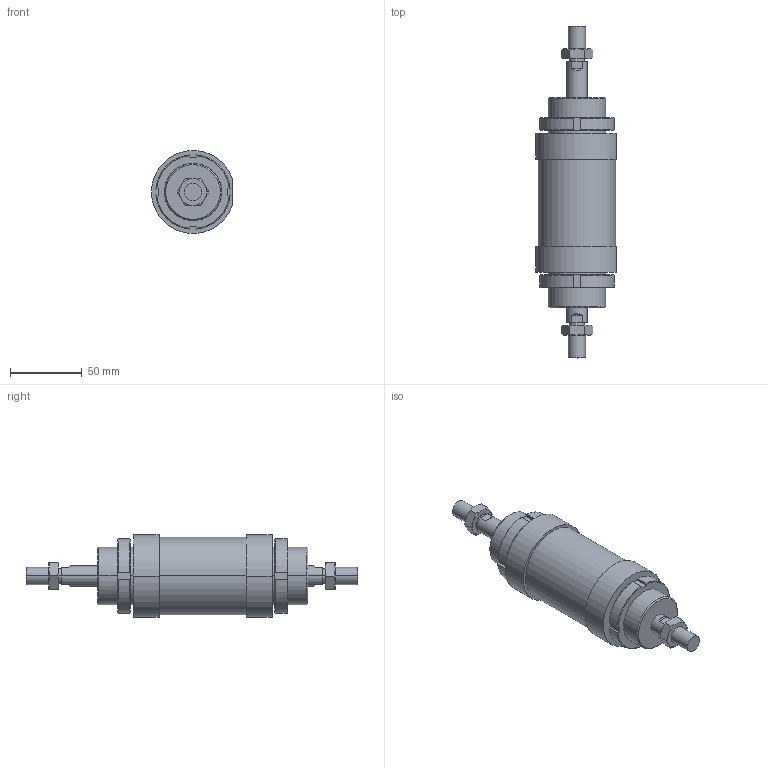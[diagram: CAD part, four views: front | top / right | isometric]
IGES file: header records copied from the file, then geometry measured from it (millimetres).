
Global section: file name: No Iges File Name specified; native system: AutoDesk Inventor R6.0; preprocessor: AutoDesk Inventor Iges Exporter R6.0; author: No Author specified; organization: No Organization specified; date: 20030403.072938; units: millimetre
Bounding box: 56.6 x 232 x 57.85 mm (x, y, z)
Volume: 324283.6 mm3; surface area: 57106 mm2
Topology: 6 solids, 6 shells, 182 faces, 424 edges, 264 vertices
Faces by surface type: plane 66, cone 52, bspline 30, cylinder 28, revolution 6
